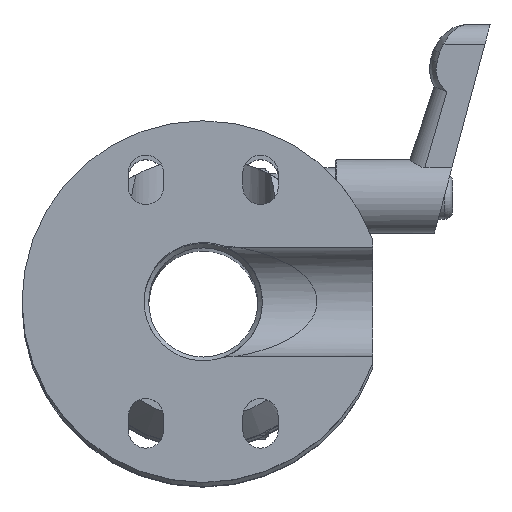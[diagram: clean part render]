
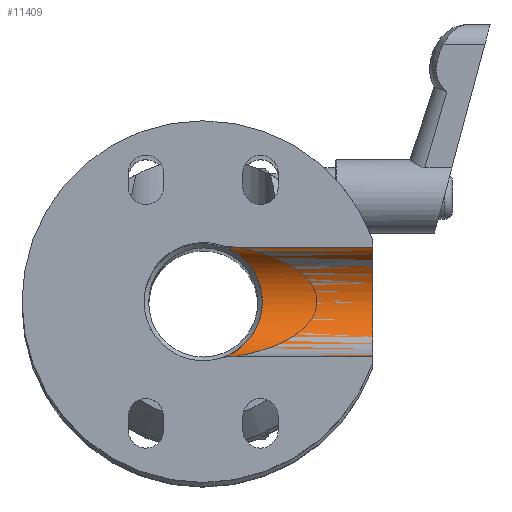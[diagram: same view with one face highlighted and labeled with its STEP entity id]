
A CAD part, top view. The second image highlights one B-rep face of the part: STEP entity #11409.
In plain terms, the highlighted cylindrical face has radius 9.525 mm (diameter 19.05 mm), a partial arc.
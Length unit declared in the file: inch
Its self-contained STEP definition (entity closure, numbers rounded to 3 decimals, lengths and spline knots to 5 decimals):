
#309 = CARTESIAN_POINT ( 'NONE',  ( 0.38527, 0.22219, -0.13128 ) ) ;
#1787 = CIRCLE ( 'NONE', #6922, 0.375 ) ;
#2419 = CARTESIAN_POINT ( 'NONE',  ( 0.35498, 0.18875, 0.19793 ) ) ;
#3176 = VECTOR ( 'NONE', #39518, 39.37008 ) ;
#3646 = CARTESIAN_POINT ( 'NONE',  ( 1.165, -0.13, 0. ) ) ;
#3778 = CARTESIAN_POINT ( 'NONE',  ( 0.33628, 0.16779, -0.22823 ) ) ;
#4545 = B_SPLINE_CURVE_WITH_KNOTS ( 'NONE', 3,
 ( #31784, #32015, #24552, #24314, #35528, #31550, #38570, #6749, #38801, #23871, #20873, #45750, #34599, #21099, #35073, #45292, #3778, #42263, #6985, #14402, #35301, #309, #17859, #13672, #35022, #13897, #31726, #33903, #34138, #12814, #5617, #15806, #9293, #13037, #26905, #2419, #20181, #12574, #22706, #37170, #40903, #23397, #27134, #37640, #44150, #12345, #29948, #44379, #30630, #9055, #23178, #40667 ),
 .UNSPECIFIED., .F., .F.,
 ( 4, 2, 2, 2, 2, 2, 2, 2, 2, 2, 2, 2, 2, 2, 2, 2, 2, 2, 2, 2, 2, 2, 2, 2, 2, 4 ),
 ( 0.01445, 0.01548, 0.01651, 0.01754, 0.01856, 0.02062, 0.02267, 0.0237, 0.02473, 0.02576, 0.02678, 0.02884, 0.02987, 0.03089, 0.03192, 0.03295, 0.035, 0.03603, 0.03706, 0.03912, 0.04117, 0.04323, 0.04528, 0.04631, 0.04682, 0.04734 ),
 .UNSPECIFIED. ) ;
#5617 = CARTESIAN_POINT ( 'NONE',  ( 0.40097, 0.23927, 0.06661 ) ) ;
#6749 = CARTESIAN_POINT ( 'NONE',  ( 0.19953, -0.00557, -0.35395 ) ) ;
#6922 = AXIS2_PLACEMENT_3D ( 'NONE', #3646, #31870, #21870 ) ;
#6985 = CARTESIAN_POINT ( 'NONE',  ( 0.35459, 0.18832, -0.19862 ) ) ;
#7675 = DIRECTION ( 'NONE',  ( -1., 0., 0. ) ) ;
#8577 = VERTEX_POINT ( 'NONE', #19859 ) ;
#9055 = CARTESIAN_POINT ( 'NONE',  ( 0.15671, -0.11631, 0.37481 ) ) ;
#9293 = CARTESIAN_POINT ( 'NONE',  ( 0.38549, 0.22243, 0.13063 ) ) ;
#10727 = LINE ( 'NONE', #24827, #3176 ) ;
#11409 = ADVANCED_FACE ( 'NONE', ( #22157 ), #38961, .T. ) ;
#12345 = CARTESIAN_POINT ( 'NONE',  ( 0.16932, -0.06387, 0.36933 ) ) ;
#12574 = CARTESIAN_POINT ( 'NONE',  ( 0.3303, 0.16108, 0.23765 ) ) ;
#12814 = CARTESIAN_POINT ( 'NONE',  ( 0.40295, 0.24142, 0.05341 ) ) ;
#13037 = CARTESIAN_POINT ( 'NONE',  ( 0.3713, 0.20683, 0.16533 ) ) ;
#13672 = CARTESIAN_POINT ( 'NONE',  ( 0.40082, 0.23911, -0.06755 ) ) ;
#13897 = CARTESIAN_POINT ( 'NONE',  ( 0.40553, 0.24422, -0.0276 ) ) ;
#14347 = CARTESIAN_POINT ( 'NONE',  ( 4.25069, -0.13, 0. ) ) ;
#14402 = CARTESIAN_POINT ( 'NONE',  ( 0.36574, 0.20069, -0.17726 ) ) ;
#15052 = EDGE_CURVE ( 'NONE', #8577, #21034, #29030, .T. ) ;
#15257 = DIRECTION ( 'NONE',  ( 0., 0., 1. ) ) ;
#15806 = CARTESIAN_POINT ( 'NONE',  ( 0.39321, 0.23083, 0.10548 ) ) ;
#15834 = CARTESIAN_POINT ( 'NONE',  ( 1.165, -0.13, -0.375 ) ) ;
#15841 = AXIS2_PLACEMENT_3D ( 'NONE', #14347, #18468, #15257 ) ;
#17859 = CARTESIAN_POINT ( 'NONE',  ( 0.39288, 0.23047, -0.10677 ) ) ;
#18039 = EDGE_CURVE ( 'NONE', #43987, #21034, #4545, .T. ) ;
#18468 = DIRECTION ( 'NONE',  ( -1., 0., 0. ) ) ;
#19312 = VECTOR ( 'NONE', #7675, 39.37008 ) ;
#19413 = CARTESIAN_POINT ( 'NONE',  ( 0.15625, -0.13, -0.375 ) ) ;
#19859 = CARTESIAN_POINT ( 'NONE',  ( 1.165, -0.13, 0.375 ) ) ;
#20181 = CARTESIAN_POINT ( 'NONE',  ( 0.34898, 0.18207, 0.20829 ) ) ;
#20873 = CARTESIAN_POINT ( 'NONE',  ( 0.24331, 0.05685, -0.3259 ) ) ;
#21034 = VERTEX_POINT ( 'NONE', #24759 ) ;
#21099 = CARTESIAN_POINT ( 'NONE',  ( 0.30929, 0.13696, -0.26361 ) ) ;
#21870 = DIRECTION ( 'NONE',  ( 0., -1., 0. ) ) ;
#22157 = FACE_OUTER_BOUND ( 'NONE', #41292, .T. ) ;
#22706 = CARTESIAN_POINT ( 'NONE',  ( 0.31682, 0.14574, 0.25518 ) ) ;
#23178 = CARTESIAN_POINT ( 'NONE',  ( 0.15625, -0.12317, 0.375 ) ) ;
#23397 = CARTESIAN_POINT ( 'NONE',  ( 0.24344, 0.05702, 0.32581 ) ) ;
#23871 = CARTESIAN_POINT ( 'NONE',  ( 0.22828, 0.03715, -0.33647 ) ) ;
#24314 = CARTESIAN_POINT ( 'NONE',  ( 0.16458, -0.07679, -0.37144 ) ) ;
#24552 = CARTESIAN_POINT ( 'NONE',  ( 0.15808, -0.10287, -0.37425 ) ) ;
#24759 = CARTESIAN_POINT ( 'NONE',  ( 0.15625, -0.13, 0.375 ) ) ;
#24827 = CARTESIAN_POINT ( 'NONE',  ( 4.25069, -0.13, -0.375 ) ) ;
#25509 = CARTESIAN_POINT ( 'NONE',  ( 4.25069, -0.13, 0.375 ) ) ;
#26905 = CARTESIAN_POINT ( 'NONE',  ( 0.36612, 0.20112, 0.17646 ) ) ;
#27134 = CARTESIAN_POINT ( 'NONE',  ( 0.2284, 0.0373, 0.33639 ) ) ;
#29030 = LINE ( 'NONE', #25509, #19312 ) ;
#29948 = CARTESIAN_POINT ( 'NONE',  ( 0.16462, -0.07666, 0.37142 ) ) ;
#30630 = CARTESIAN_POINT ( 'NONE',  ( 0.15845, -0.10288, 0.37408 ) ) ;
#31550 = CARTESIAN_POINT ( 'NONE',  ( 0.18015, -0.03968, -0.36417 ) ) ;
#31726 = CARTESIAN_POINT ( 'NONE',  ( 0.40623, 0.24497, -0.0142 ) ) ;
#31784 = CARTESIAN_POINT ( 'NONE',  ( 0.15625, -0.13, -0.375 ) ) ;
#31870 = DIRECTION ( 'NONE',  ( -1., 0., 0. ) ) ;
#32015 = CARTESIAN_POINT ( 'NONE',  ( 0.15625, -0.11623, -0.375 ) ) ;
#33903 = CARTESIAN_POINT ( 'NONE',  ( 0.40627, 0.24502, 0.01278 ) ) ;
#34138 = CARTESIAN_POINT ( 'NONE',  ( 0.40561, 0.24431, 0.02647 ) ) ;
#34553 = EDGE_CURVE ( 'NONE', #45440, #43987, #10727, .T. ) ;
#34599 = CARTESIAN_POINT ( 'NONE',  ( 0.28784, 0.1119, -0.28748 ) ) ;
#35022 = CARTESIAN_POINT ( 'NONE',  ( 0.40283, 0.2413, -0.05425 ) ) ;
#35073 = CARTESIAN_POINT ( 'NONE',  ( 0.31631, 0.14505, -0.25516 ) ) ;
#35301 = CARTESIAN_POINT ( 'NONE',  ( 0.371, 0.2065, -0.166 ) ) ;
#35528 = CARTESIAN_POINT ( 'NONE',  ( 0.16928, -0.06397, -0.36935 ) ) ;
#36064 = EDGE_CURVE ( 'NONE', #8577, #45440, #1787, .T. ) ;
#37170 = CARTESIAN_POINT ( 'NONE',  ( 0.28844, 0.1126, 0.28687 ) ) ;
#37640 = CARTESIAN_POINT ( 'NONE',  ( 0.19962, -0.00482, 0.35423 ) ) ;
#38570 = CARTESIAN_POINT ( 'NONE',  ( 0.18633, -0.02807, -0.36107 ) ) ;
#38801 = CARTESIAN_POINT ( 'NONE',  ( 0.20657, 0.00535, -0.34991 ) ) ;
#38961 = CYLINDRICAL_SURFACE ( 'NONE', #15841, 0.375 ) ;
#39518 = DIRECTION ( 'NONE',  ( -1., 0., 0. ) ) ;
#40667 = CARTESIAN_POINT ( 'NONE',  ( 0.15625, -0.13, 0.375 ) ) ;
#40903 = CARTESIAN_POINT ( 'NONE',  ( 0.27341, 0.09466, 0.3011 ) ) ;
#41126 = ORIENTED_EDGE ( 'NONE', *, *, #36064, .T. ) ;
#41292 = EDGE_LOOP ( 'NONE', ( #41126, #43709, #41530, #41873 ) ) ;
#41530 = ORIENTED_EDGE ( 'NONE', *, *, #18039, .T. ) ;
#41873 = ORIENTED_EDGE ( 'NONE', *, *, #15052, .F. ) ;
#42263 = CARTESIAN_POINT ( 'NONE',  ( 0.34868, 0.18172, -0.2088 ) ) ;
#43709 = ORIENTED_EDGE ( 'NONE', *, *, #34553, .T. ) ;
#43987 = VERTEX_POINT ( 'NONE', #19413 ) ;
#44150 = CARTESIAN_POINT ( 'NONE',  ( 0.18567, -0.02737, 0.36154 ) ) ;
#44379 = CARTESIAN_POINT ( 'NONE',  ( 0.15972, -0.09627, 0.37354 ) ) ;
#45292 = CARTESIAN_POINT ( 'NONE',  ( 0.32979, 0.16045, -0.23749 ) ) ;
#45440 = VERTEX_POINT ( 'NONE', #15834 ) ;
#45750 = CARTESIAN_POINT ( 'NONE',  ( 0.27307, 0.09423, -0.3014 ) ) ;
